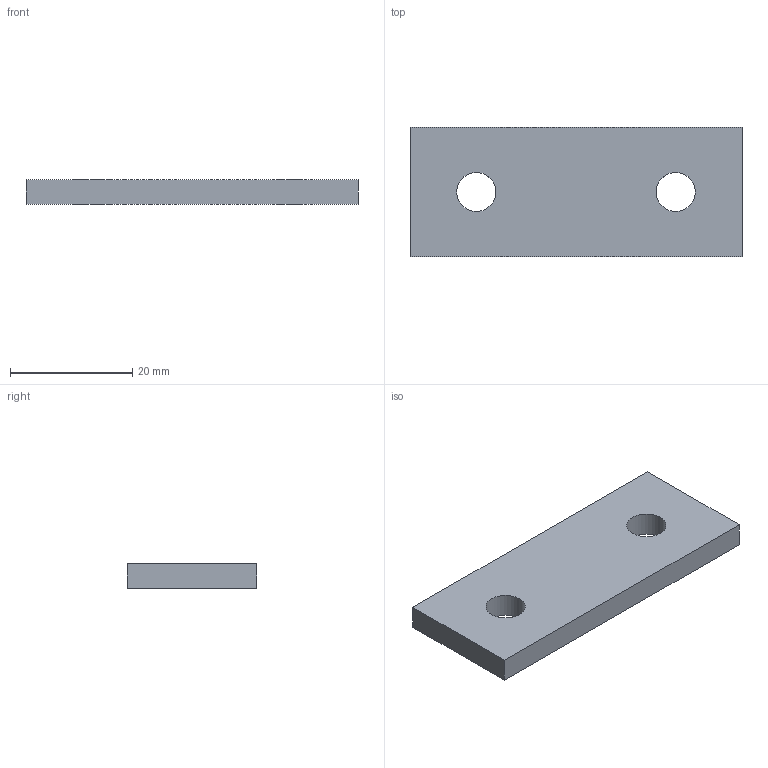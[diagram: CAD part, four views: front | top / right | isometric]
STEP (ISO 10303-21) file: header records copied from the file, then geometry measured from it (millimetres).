
FILE_DESCRIPTION(('Mechanical CAD reference from nasji.com'),'2;1');
FILE_NAME('NASJI.step','',(''),(''),'','NASJI distribution','');
FILE_SCHEMA(('AUTOMOTIVE_DESIGN { 1 0 10303 214 1 1 1 1 }'));
Length unit declared in the file: millimetre
Products named in the file (1): Open CASCADE STEP translator 7.8 58
Bounding box: 54.29 x 21.2 x 4 mm (x, y, z)
Volume: 4346.4 mm3; surface area: 2938 mm2
Topology: 1 solids, 1 shells, 8 faces, 18 edges, 12 vertices
Faces by surface type: plane 6, cylinder 2
Full cylindrical faces by diameter (mm): 6.4 x2
Entity records: 490 total; most frequent: CARTESIAN_POINT 99, DIRECTION 72, LINE 46, VECTOR 46, ORIENTED_EDGE 36, PCURVE 36, DEFINITIONAL_REPRESENTATION 36, EDGE_CURVE 18
